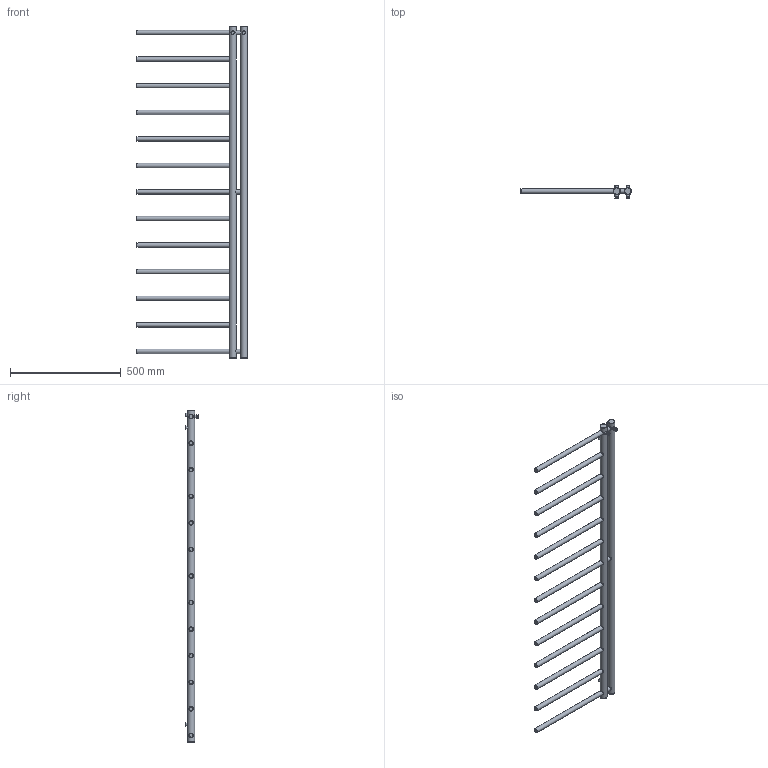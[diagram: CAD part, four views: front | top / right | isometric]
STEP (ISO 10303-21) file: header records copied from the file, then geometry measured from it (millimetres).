
FILE_DESCRIPTION(/* description */ ('Unknown'),/* implementation_level */ '2;1');
FILE_NAME(/* name */ 'AP2-L',/* time_stamp */ '2022-09-25T19:45:38+02:00',/* author */ ('Unknown'),/* organization */ ('Unknown'),/* preprocessor_version */ 'ST-DEVELOPER v18.102',/* originating_system */ 'Solid Edge',/* authorisation */ 'Unknown');
FILE_SCHEMA (('AUTOMOTIVE_DESIGN {1 0 10303 214 3 1 1}'));
Length unit declared in the file: millimetre
Products named in the file (11): AP2-L; AP-L_V-R-TR-32-1,5-1497; AP-L_V-L-TR-32-1,5-1497; AP_H-TR-20-1,5-30; AP_H-TR-20-1,5-422,5; MD_Víèko slepé pr_20; MD_Víèko se závitem G1-2 pr_32; MD_Víèko slepé pr_32; MD_T靗o odvzdu汄ovac韍o ventilu; MD_Úchyt pr_32; MD_Háèek pr_32
Assembly tree (42 placements, depth 2):
  AP2-L
    AP-L_V-R-TR-32-1,5-1497
    AP-L_V-L-TR-32-1,5-1497
    AP_H-TR-20-1,5-30  x3
    AP_H-TR-20-1,5-422,5  x13
    MD_Víèko slepé pr_20  x13
    MD_Víèko se závitem G1-2 pr_32  x2
    MD_Víèko slepé pr_32  x2
    MD_T靗o odvzdu汄ovac韍o ventilu
    MD_Úchyt pr_32  x4
    MD_Háèek pr_32  x2
Bounding box: 500 x 60 x 1500 mm (x, y, z)
Volume: 935389.9 mm3; surface area: 1239734.8 mm2
Topology: 42 solids, 42 shells, 254 faces, 445 edges, 292 vertices
Faces by surface type: cylinder 117, plane 105, torus 17, cone 15
Full cylindrical faces by diameter (mm): 2 x1, 6.647 x1, 8 x2, 10.106 x4, 16 x10, 16.7 x13, 17 x16, 18.631 x2, 19.2 x13, 20 x35, 22 x2, 28.7 x4, 29 x2, 31.2 x4, 32 x2
Entity records: 3453 total; most frequent: CARTESIAN_POINT 1242, DIRECTION 372, ORIENTED_EDGE 208, EDGE_LOOP 200, FACE_BOUND 200, AXIS2_PLACEMENT_3D 185, EDGE_CURVE 104, VERTEX_POINT 102
